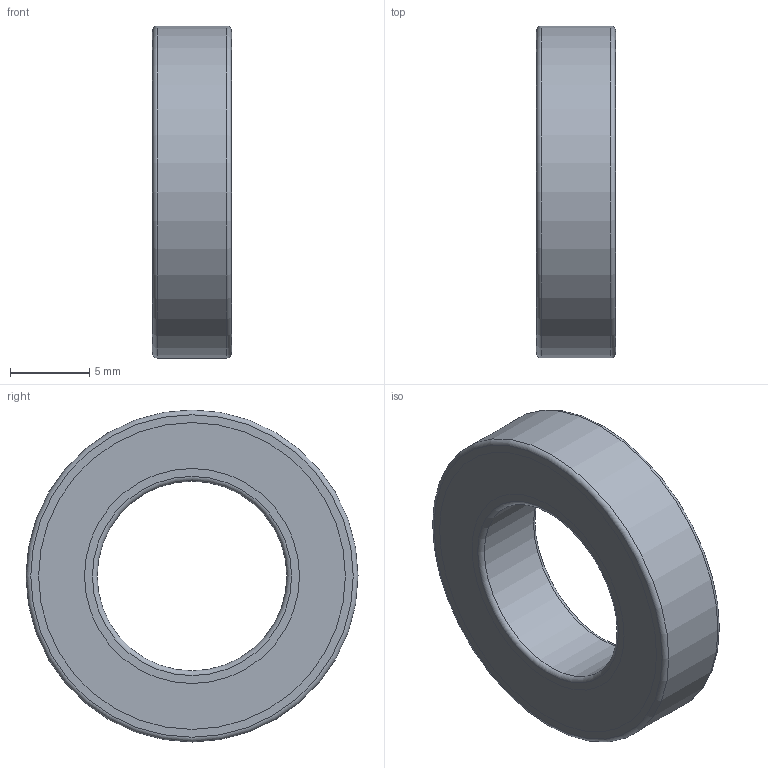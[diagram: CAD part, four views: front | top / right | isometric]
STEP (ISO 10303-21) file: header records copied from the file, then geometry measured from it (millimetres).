
FILE_DESCRIPTION(/* description */ (''),/* implementation_level */ '2;1');
FILE_NAME(/* name */ 'D:\moje\parametrické\618--\rada618-2Z\618----2Z\61801-2Z.stp',/* time_stamp */ '2016-04-04T14:59:34+02:00',/* author */ ('OUBALASKO'),/* organization */ (''),/* preprocessor_version */ 'ST-DEVELOPER v15.2',/* originating_system */ 'Autodesk Inventor 2014',/* authorisation */ '');
FILE_SCHEMA (('AUTOMOTIVE_DESIGN { 1 0 10303 214 3 1 1 }'));
Length unit declared in the file: millimetre
Products named in the file (6): 61801-02-2Z; 61801-ball; 61801-cage; 61801-01-2Z; 61801-seal-2RS,Z; 61801-2Z
Bounding box: 5 x 21 x 21 mm (x, y, z)
Volume: 839.7 mm3; surface area: 2436.6 mm2
Topology: 18 solids, 18 shells, 144 faces, 528 edges, 348 vertices
Faces by surface type: plane 60, sphere 60, cylinder 18, torus 6
Full cylindrical faces by diameter (mm): 12 x1, 13.595 x4, 14.595 x2, 15.786 x2, 17.214 x2, 18.405 x2, 19.405 x4, 21 x1
Entity records: 3344 total; most frequent: CARTESIAN_POINT 1314, DIRECTION 456, ORIENTED_EDGE 346, AXIS2_PLACEMENT_3D 228, EDGE_CURVE 173, VERTEX_POINT 126, CIRCLE 125, EDGE_LOOP 109
